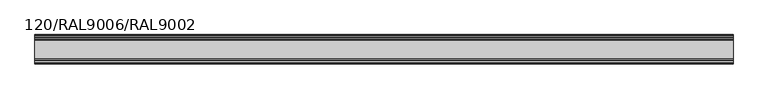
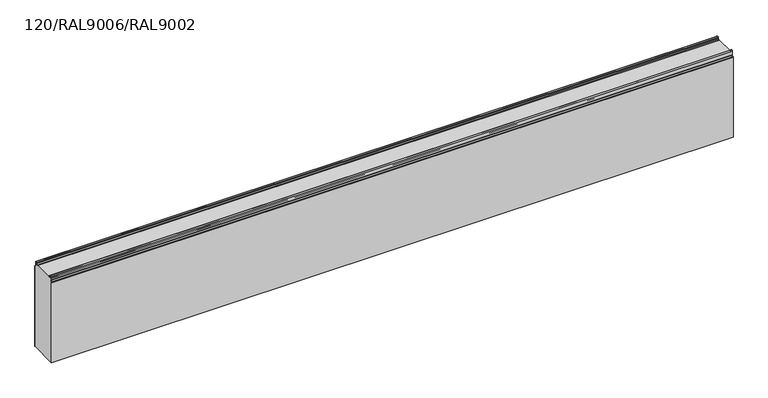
"""IFC4 building model written with IfcOpenShell, lengths in millimetres: plate geometry, TR_C_H_FTV_Panel_cut_TONGUE : 120/RAL9006/RAL9002."""

from ifc_helpers import new_model, si_unit, point, frame, frame_2d, origin, place, context, project, spatial, polyline, circle_curve, trimmed, segment, composite_curve, outline, extrude, source, transform, mapped, element, save


def plate_120_ral9006_ral9002_1c424da0(model_context):
    return source(origin(), model_context, "Body", "SweptSolid", [
        extrude(outline(composite_curve([segment(trimmed(circle_curve(frame_2d((-117.0, 484.3218266)), 2.2), [point((-119.2, 484.3218266))], [point((-118.5556349, 485.8774615))], False, "CARTESIAN"), True, "CONTINUOUS"), segment(polyline([(-118.5556349, 485.8774615), (-114.1665476, 490.2665488)]), True, "CONTINUOUS"), segment(trimmed(circle_curve(frame_2d((-116.5, 492.6000012)), 3.3), [point((-114.1665476, 490.2665488))], [point((-113.2, 492.6000012))], True, "CARTESIAN"), True, "CONTINUOUS"), segment(polyline([(-113.2, 492.6000012), (-113.2, 500.0), (-6.8, 500.0), (-6.8, 492.6000012)]), True, "CONTINUOUS"), segment(trimmed(circle_curve(frame_2d((-3.5, 492.6000012)), 3.3), [point((-6.8, 492.6000012))], [point((-5.8334524, 490.2665488))], True, "CARTESIAN"), True, "CONTINUOUS"), segment(polyline([(-5.8334524, 490.2665488), (-1.4443651, 485.8774615)]), True, "CONTINUOUS"), segment(trimmed(circle_curve(frame_2d((-3.0, 484.3218266)), 2.2), [point((-1.4443651, 485.8774615))], [point((-0.8, 484.3218266))], False, "CARTESIAN"), True, "CONTINUOUS"), segment(polyline([(-0.8, 484.3218266), (-0.8, 130.0), (-119.2, 130.0), (-119.2, 484.3218266)]), True, "CONTINUOUS")], self_intersect=False)), frame((-1370.0, 0.0, 0.0), z_axis=(1.0, 0.0, 0.0), x_axis=(0.0, 1.0, 0.0)), (0.0, 0.0, 1.0), 2850.0),
        extrude(outline(composite_curve([segment(trimmed(circle_curve(frame_2d((-3.0, 484.3218266)), 3.0), [point((-0.8786797, 486.4431469))], [point((0.0, 484.3218266))], False, "CARTESIAN"), True, "CONTINUOUS"), segment(polyline([(0.0, 484.3218266), (0.0, 130.0), (-0.8, 130.0), (-0.8, 484.3218266)]), True, "CONTINUOUS"), segment(trimmed(circle_curve(frame_2d((-3.0, 484.3218266)), 2.2), [point((-0.8, 484.3218266))], [point((-1.4443651, 485.8774615))], True, "CARTESIAN"), True, "CONTINUOUS"), segment(polyline([(-1.4443651, 485.8774615), (-5.8334524, 490.2665488)]), True, "CONTINUOUS"), segment(trimmed(circle_curve(frame_2d((-3.5, 492.6000012)), 3.3), [point((-5.8334524, 490.2665488))], [point((-6.8, 492.6000012))], False, "CARTESIAN"), True, "CONTINUOUS"), segment(polyline([(-6.8, 492.6000012), (-6.8, 507.3500012)]), True, "CONTINUOUS"), segment(trimmed(circle_curve(frame_2d((-9.25, 507.3500012)), 2.45), [point((-6.8, 507.3500012))], [point((-11.662779, 507.7754392))], True, "CARTESIAN"), True, "CONTINUOUS"), segment(polyline([(-11.662779, 507.7754392), (-12.4060919, 503.559902)]), True, "CONTINUOUS"), segment(trimmed(circle_curve(frame_2d((-16.8869672, 504.3500012)), 4.55), [point((-12.4060919, 503.559902))], [point((-16.8869672, 499.8000012))], False, "CARTESIAN"), True, "CONTINUOUS"), segment(polyline([(-16.8869672, 499.8000012), (-21.0, 499.8000012), (-21.0, 500.6000012), (-16.8869672, 500.6000012)]), True, "CONTINUOUS"), segment(trimmed(circle_curve(frame_2d((-16.8869672, 504.3500012)), 3.75), [point((-16.8869672, 500.6000012))], [point((-13.1939382, 503.6988205))], True, "CARTESIAN"), True, "CONTINUOUS"), segment(polyline([(-13.1939382, 503.6988205), (-12.4506252, 507.9143577)]), True, "CONTINUOUS"), segment(trimmed(circle_curve(frame_2d((-9.25, 507.3500012)), 3.25), [point((-12.4506252, 507.9143577))], [point((-6.0, 507.3500012))], False, "CARTESIAN"), True, "CONTINUOUS"), segment(polyline([(-6.0, 507.3500012), (-6.0, 492.6000012)]), True, "CONTINUOUS"), segment(trimmed(circle_curve(frame_2d((-3.5, 492.6000012)), 2.5), [point((-6.0, 492.6000012))], [point((-5.267767, 490.8322342))], True, "CARTESIAN"), True, "CONTINUOUS"), segment(polyline([(-5.267767, 490.8322342), (-0.8786797, 486.4431469)]), True, "CONTINUOUS")], self_intersect=False)), frame((-1370.0, 0.0, 0.0), z_axis=(1.0, 0.0, 0.0), x_axis=(0.0, 1.0, 0.0)), (0.0, 0.0, 1.0), 2850.0),
        extrude(outline(composite_curve([segment(trimmed(circle_curve(frame_2d((-103.1130328, 504.3500012)), 4.55), [point((-103.1130328, 499.8000012))], [point((-107.5939081, 503.559902))], False, "CARTESIAN"), True, "CONTINUOUS"), segment(polyline([(-107.5939081, 503.559902), (-108.337221, 507.7754392)]), True, "CONTINUOUS"), segment(trimmed(circle_curve(frame_2d((-110.75, 507.3500012)), 2.45), [point((-108.337221, 507.7754392))], [point((-113.2, 507.3500012))], True, "CARTESIAN"), True, "CONTINUOUS"), segment(polyline([(-113.2, 507.3500012), (-113.2, 492.6000012)]), True, "CONTINUOUS"), segment(trimmed(circle_curve(frame_2d((-116.5, 492.6000012)), 3.3), [point((-113.2, 492.6000012))], [point((-114.1665476, 490.2665488))], False, "CARTESIAN"), True, "CONTINUOUS"), segment(polyline([(-114.1665476, 490.2665488), (-118.5556349, 485.8774615)]), True, "CONTINUOUS"), segment(trimmed(circle_curve(frame_2d((-117.0, 484.3218266)), 2.2), [point((-118.5556349, 485.8774615))], [point((-119.2, 484.3218266))], True, "CARTESIAN"), True, "CONTINUOUS"), segment(polyline([(-119.2, 484.3218266), (-119.2, 130.0), (-120.0, 130.0), (-120.0, 484.3218266)]), True, "CONTINUOUS"), segment(trimmed(circle_curve(frame_2d((-117.0, 484.3218266)), 3.0), [point((-120.0, 484.3218266))], [point((-119.1213203, 486.4431469))], False, "CARTESIAN"), True, "CONTINUOUS"), segment(polyline([(-119.1213203, 486.4431469), (-114.732233, 490.8322342)]), True, "CONTINUOUS"), segment(trimmed(circle_curve(frame_2d((-116.5, 492.6000012)), 2.5), [point((-114.732233, 490.8322342))], [point((-114.0, 492.6000012))], True, "CARTESIAN"), True, "CONTINUOUS"), segment(polyline([(-114.0, 492.6000012), (-114.0, 507.3500012)]), True, "CONTINUOUS"), segment(trimmed(circle_curve(frame_2d((-110.75, 507.3500012)), 3.25), [point((-114.0, 507.3500012))], [point((-107.5493748, 507.9143577))], False, "CARTESIAN"), True, "CONTINUOUS"), segment(polyline([(-107.5493748, 507.9143577), (-106.8060618, 503.6988205)]), True, "CONTINUOUS"), segment(trimmed(circle_curve(frame_2d((-103.1130328, 504.3500012)), 3.75), [point((-106.8060618, 503.6988205))], [point((-103.1130328, 500.6000012))], True, "CARTESIAN"), True, "CONTINUOUS"), segment(polyline([(-103.1130328, 500.6000012), (-99.0, 500.6000012), (-99.0, 499.8000012), (-103.1130328, 499.8000012)]), True, "CONTINUOUS")], self_intersect=False)), frame((-1370.0, 0.0, 0.0), z_axis=(1.0, 0.0, 0.0), x_axis=(0.0, 1.0, 0.0)), (0.0, 0.0, 1.0), 2850.0),
    ])


if __name__ == "__main__":
    model = new_model("IFC4")
    model_context = context("Model", 3, world=origin())
    ifc_project = project(units=[si_unit("LENGTHUNIT", "METRE", prefix="MILLI")], contexts=[model_context])
    site = spatial("IfcSite", under=ifc_project)
    building = spatial("IfcBuilding", under=site)
    placement = place(None, origin())
    plate_120_ral9006_ral9002_shape = plate_120_ral9006_ral9002_1c424da0(model_context)
    element("IfcPlate", 1, ObjectType="TR_C_H_FTV_Panel_cut_TONGUE : 120/RAL9006/RAL9002", at=placement, inside=building, context=model_context, shape_type="MappedRepresentation", body=[
        mapped(plate_120_ral9006_ral9002_shape, transform((0.0, 0.0, 0.0), x_axis=(1.0, 0.0, 0.0), y_axis=(0.0, 1.0, 0.0), z_axis=(0.0, 0.0, 1.0))),
    ])
    save(model, "model.ifc")
